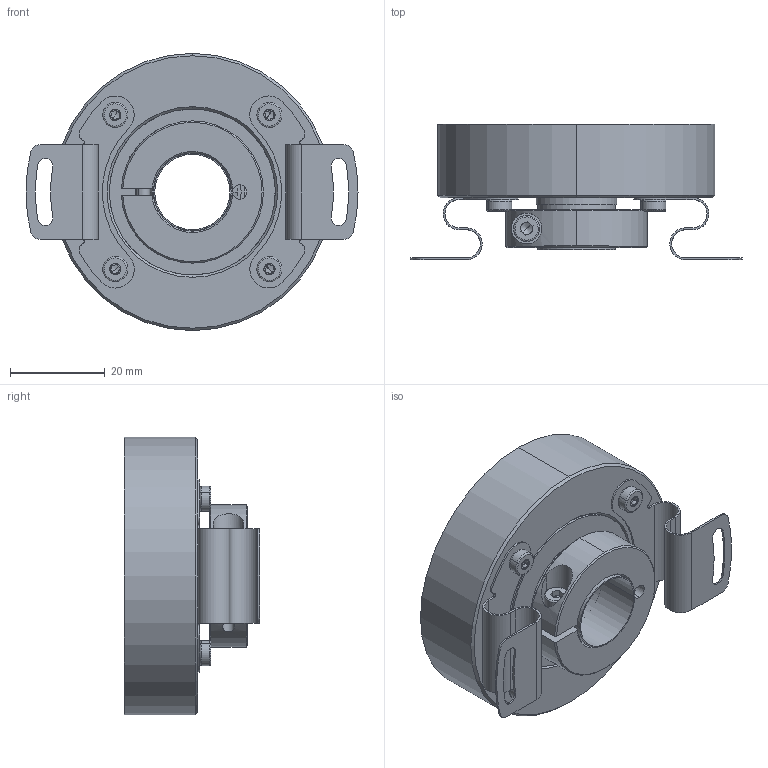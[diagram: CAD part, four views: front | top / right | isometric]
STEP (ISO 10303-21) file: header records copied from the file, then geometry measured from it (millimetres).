
FILE_DESCRIPTION (( 'STEP AP214' ), '1' );
FILE_NAME ('drawing-ucd-huss-q5b-n.STEP', '2017-02-22T15:12:37', ( '' ), ( '' ), 'SwSTEP 2.0', 'SolidWorks 2015', '' );
FILE_SCHEMA (( 'AUTOMOTIVE_DESIGN' ));
Length unit declared in the file: millimetre
Products named in the file (1): drawing-ucd-huss-q5b-n
Bounding box: 70.05 x 28.6 x 58.5 mm (x, y, z)
Volume: 39529.1 mm3; surface area: 27736.6 mm2
Topology: 26 solids, 26 shells, 1015 faces, 2403 edges, 1425 vertices
Faces by surface type: cone 338, cylinder 269, plane 224, bspline 140, torus 44
Entity records: 46550 total; most frequent: CARTESIAN_POINT 12384, DIRECTION 4786, ORIENTED_EDGE 4678, EDGE_CURVE 2339, AXIS2_PLACEMENT_3D 1883, VERTEX_POINT 1425, EDGE_LOOP 1096, UNCERTAINTY_MEASURE_WITH_UNIT 1043
